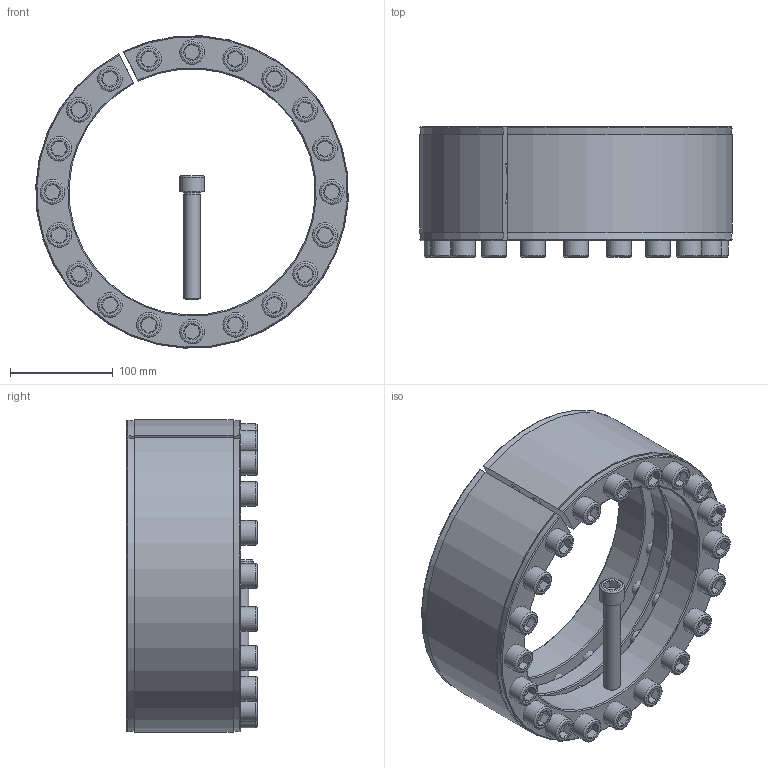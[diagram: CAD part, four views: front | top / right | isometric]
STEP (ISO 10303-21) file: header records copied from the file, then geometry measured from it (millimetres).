
FILE_DESCRIPTION( ( 'Unknown' ), '1' );
FILE_NAME( 'C:/Users/Frank/Eigene Daten/CAD/Solid Edge/KBK Karpstein/KBS Layout Baureihen/KBS 18/KBS - 240 x 305.stp', 'Unknown', ( 'Unknown' ), ( 'Unknown' ), 'XStep 1.0', 'Unknown', ' ' );
FILE_SCHEMA( ( 'automotive_design' ) );
Length unit declared in the file: millimetre
Products named in the file (3): Assem1; ISO EN DIN 4762 M16x105; KBS 18 - 240 x 305
Bounding box: 304.61 x 127 x 304.48 mm (x, y, z)
Volume: 5033961 mm3; surface area: 961275.4 mm2
Topology: 23 solids, 23 shells, 737 faces, 1653 edges, 966 vertices
Faces by surface type: plane 312, cylinder 212, cone 171, torus 42
Full cylindrical faces by diameter (mm): 13 x21, 13.835 x40, 16 x42, 17.5 x80, 24 x21
Entity records: 5298 total; most frequent: CARTESIAN_POINT 1389, DIRECTION 824, ORIENTED_EDGE 654, AXIS2_PLACEMENT_3D 394, EDGE_CURVE 327, EDGE_LOOP 282, CIRCLE 241, VERTEX_POINT 231
